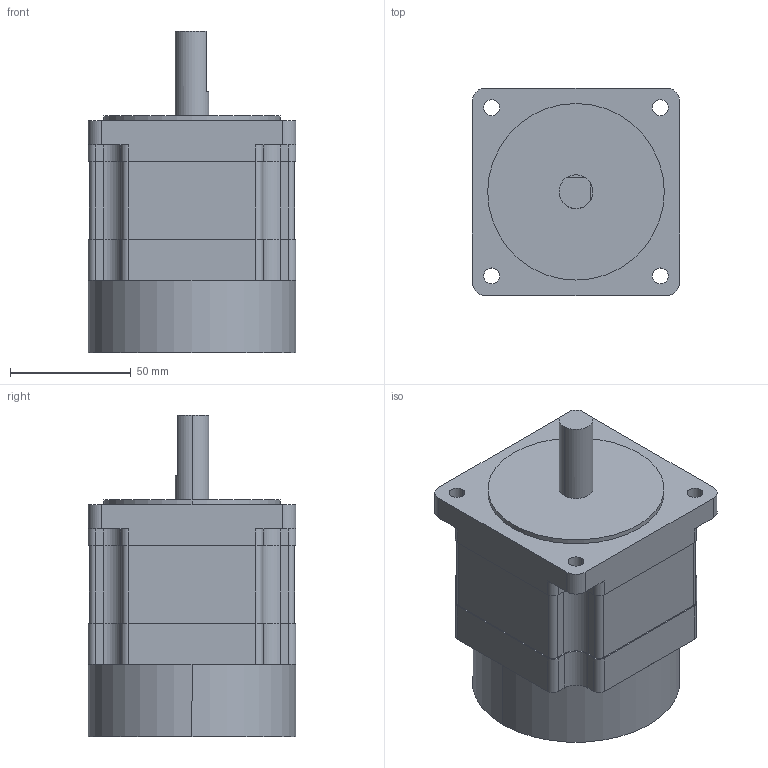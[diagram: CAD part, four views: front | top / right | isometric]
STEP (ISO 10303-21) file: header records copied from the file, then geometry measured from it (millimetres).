
FILE_DESCRIPTION (( 'STEP AP214' ), '1' );
FILE_NAME ('EXMK296-04M.STEP', '2016-09-09T06:20:04', ( 'hoho' ), ( '' ), 'SwSTEP 2.0', 'SolidWorks 2013', '' );
FILE_SCHEMA (( 'AUTOMOTIVE_DESIGN' ));
Length unit declared in the file: millimetre
Products named in the file (1): EXMK296-04M
Bounding box: 85.8 x 85.8 x 133 mm (x, y, z)
Volume: 626772.2 mm3; surface area: 46819.2 mm2
Topology: 1 solids, 1 shells, 108 faces, 300 edges, 198 vertices
Faces by surface type: cylinder 54, plane 54
Entity records: 3826 total; most frequent: DIRECTION 632, CARTESIAN_POINT 607, ORIENTED_EDGE 600, EDGE_CURVE 300, AXIS2_PLACEMENT_3D 223, VERTEX_POINT 198, VECTOR 186, LINE 186
